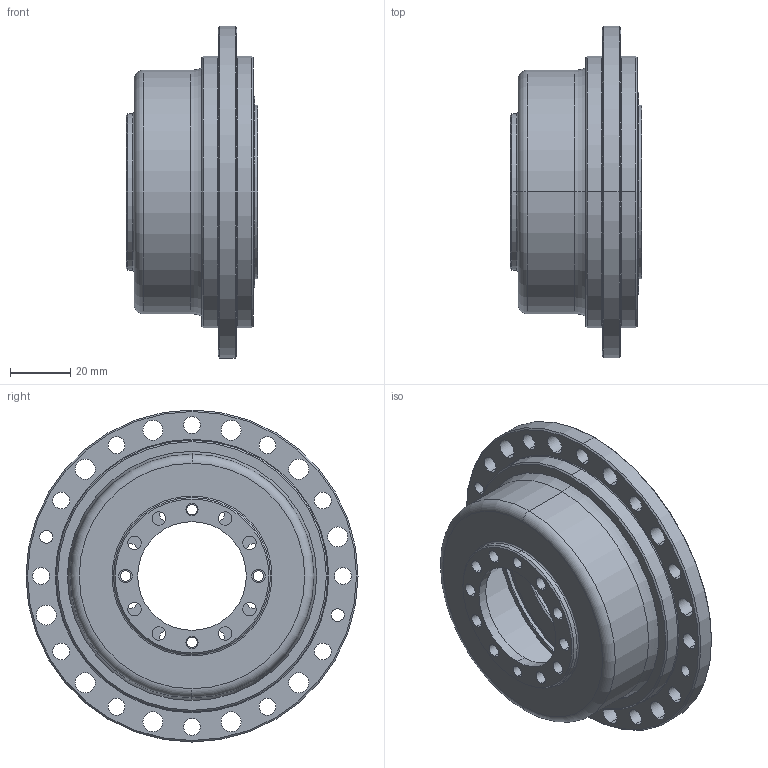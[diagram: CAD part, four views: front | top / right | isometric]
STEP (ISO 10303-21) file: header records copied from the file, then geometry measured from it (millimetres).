
FILE_DESCRIPTION (( 'STEP AP203' ), '1' );
FILE_NAME ('蚾饜极1.STEP', '2017-06-30T07:03:53', ( 'Windows 蚚誧' ), ( 'Users' ), 'SwSTEP 2.0', 'SolidWorks 2013', '' );
FILE_SCHEMA (( 'CONFIG_CONTROL_DESIGN' ));
Length unit declared in the file: millimetre
Products named in the file (8): RZC-32悵厥殤; LCS-32-XXX-P03L; 柔性轴承RZC-32; RZC-32内外圈+钢球; 粣噤 58_GB_CONNECTING_PIECE_RINGS_CSB 58; LCS-32-XXX-P02L; LCS-32-XXX-P01L; 蚾饜极1
Assembly tree (7 placements, depth 3):
  蚾饜极1
    LCS-32-XXX-P03L
    柔性轴承RZC-32
      RZC-32内外圈+钢球
      RZC-32悵厥殤
    粣噤 58_GB_CONNECTING_PIECE_RINGS_CSB 58
    LCS-32-XXX-P02L
    LCS-32-XXX-P01L
Bounding box: 43.5 x 110 x 110 mm (x, y, z)
Volume: 79043.8 mm3; surface area: 81793.1 mm2
Topology: 30 solids, 30 shells, 400 faces, 1090 edges, 713 vertices
Faces by surface type: cylinder 225, plane 71, sphere 46, torus 38, cone 20
Entity records: 13179 total; most frequent: DIRECTION 2475, CARTESIAN_POINT 2030, ORIENTED_EDGE 1950, AXIS2_PLACEMENT_3D 1089, EDGE_CURVE 975, CIRCLE 678, VERTEX_POINT 644, EDGE_LOOP 529
